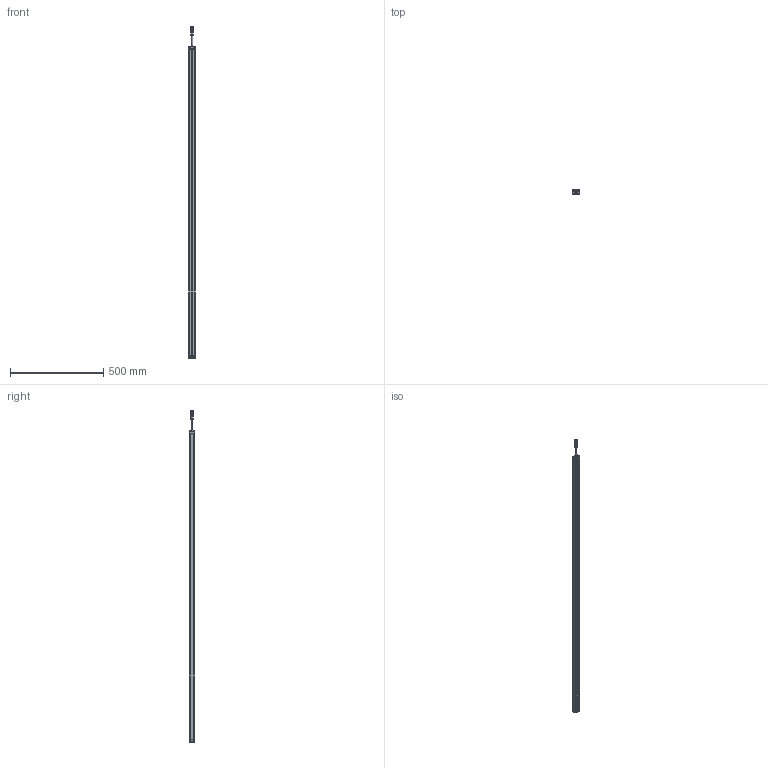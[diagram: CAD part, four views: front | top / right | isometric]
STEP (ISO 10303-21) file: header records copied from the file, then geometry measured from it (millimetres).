
FILE_DESCRIPTION((''),'2;1');
FILE_NAME('SMT1-CGQ_ASM','2025-08-08T08:50:59',('Administrator'),(''),'CREO PARAMETRIC BY PTC INC, 2016510','CREO PARAMETRIC BY PTC INC, 2016510','');
FILE_SCHEMA(('CONFIG_CONTROL_DESIGN'));
Length unit declared in the file: millimetre
Products named in the file (7): SMT1-XINGCAI-V1; SMT1-SDG-V1; SMT1-XDG-V1; M12-CHATOU; ST3X18; CT4-LVGUANGBAN; SMT1-CGQ_ASM
Assembly tree (13 placements, depth 2):
  SMT1-CGQ_ASM
    SMT1-XINGCAI-V1
    SMT1-SDG-V1
    SMT1-XDG-V1
    M12-CHATOU
    ST3X18  x8
    CT4-LVGUANGBAN
Bounding box: 33 x 28.02 x 1779.5 mm (x, y, z)
Volume: 1289923.7 mm3; surface area: 411931.5 mm2
Topology: 13 solids, 13 shells, 712 faces, 1868 edges, 1200 vertices
Faces by surface type: plane 382, cylinder 184, extrusion 86, sphere 32, cone 20, bspline 8
Entity records: 18128 total; most frequent: CARTESIAN_POINT 4347, ORIENTED_EDGE 2916, DIRECTION 2580, EDGE_CURVE 1458, VECTOR 1036, VERTEX_POINT 955, LINE 950, AXIS2_PLACEMENT_3D 772
